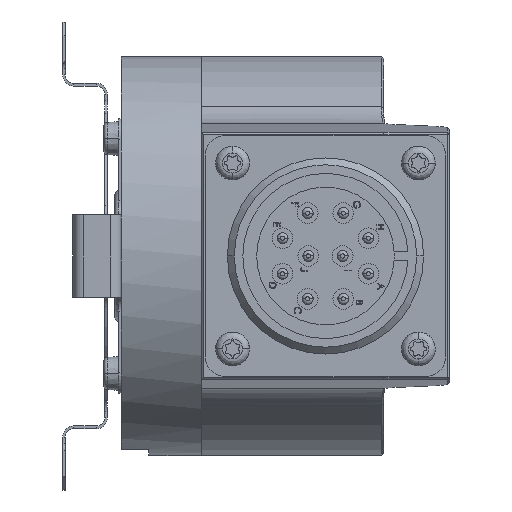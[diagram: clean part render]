
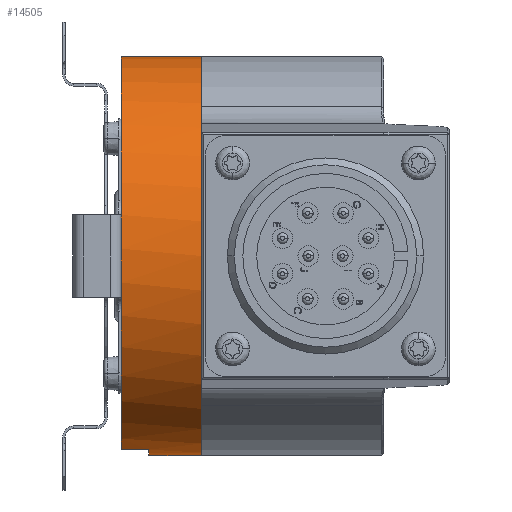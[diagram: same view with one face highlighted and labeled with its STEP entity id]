
A CAD part, front view. The second image highlights one B-rep face of the part: STEP entity #14505.
In plain terms, the highlighted cylindrical face has radius 29 mm (diameter 58 mm), a partial arc.
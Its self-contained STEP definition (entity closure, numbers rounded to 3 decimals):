
#88 = CARTESIAN_POINT ( 'NONE',  ( -3.622, 18.423, -28.142 ) ) ;
#131 = CARTESIAN_POINT ( 'NONE',  ( -3.622, 25.423, 29. ) ) ;
#639 = VERTEX_POINT ( 'NONE', #5673 ) ;
#721 = EDGE_CURVE ( 'NONE', #21824, #639, #20936, .T. ) ;
#1542 = ORIENTED_EDGE ( 'NONE', *, *, #19756, .F. ) ;
#2912 = ORIENTED_EDGE ( 'NONE', *, *, #15675, .T. ) ;
#3071 = DIRECTION ( 'NONE',  ( 1., 0., 0. ) ) ;
#3175 = CIRCLE ( 'NONE', #23425, 29. ) ;
#3300 = EDGE_CURVE ( 'NONE', #9199, #4149, #16801, .T. ) ;
#3954 = VECTOR ( 'NONE', #21583, 1000. ) ;
#4149 = VERTEX_POINT ( 'NONE', #88 ) ;
#4277 = CIRCLE ( 'NONE', #12838, 29. ) ;
#4954 = ORIENTED_EDGE ( 'NONE', *, *, #16945, .T. ) ;
#5183 = CARTESIAN_POINT ( 'NONE',  ( 8.068, 25.423, 0. ) ) ;
#5673 = CARTESIAN_POINT ( 'NONE',  ( 8.068, 25.423, -29. ) ) ;
#6641 = LINE ( 'NONE', #11018, #3954 ) ;
#6796 = ORIENTED_EDGE ( 'NONE', *, *, #721, .F. ) ;
#7749 = EDGE_LOOP ( 'NONE', ( #1542, #2912, #16017, #8155, #4954, #6796 ) ) ;
#8038 = DIRECTION ( 'NONE',  ( 1., 0., 0. ) ) ;
#8155 = ORIENTED_EDGE ( 'NONE', *, *, #10541, .T. ) ;
#8774 = AXIS2_PLACEMENT_3D ( 'NONE', #10602, #12718, #23295 ) ;
#9199 = VERTEX_POINT ( 'NONE', #21254 ) ;
#9860 = DIRECTION ( 'NONE',  ( 1., 0., 0. ) ) ;
#10287 = CARTESIAN_POINT ( 'NONE',  ( -3.622, 25.423, 0. ) ) ;
#10541 = EDGE_CURVE ( 'NONE', #9199, #24759, #3175, .T. ) ;
#10602 = CARTESIAN_POINT ( 'NONE',  ( 8.068, 25.423, 0. ) ) ;
#10633 = CARTESIAN_POINT ( 'NONE',  ( 0.378, 25.423, -29. ) ) ;
#10826 = CARTESIAN_POINT ( 'NONE',  ( 8.068, 25.423, 29. ) ) ;
#11018 = CARTESIAN_POINT ( 'NONE',  ( 8.068, 25.423, 29. ) ) ;
#11357 = VERTEX_POINT ( 'NONE', #131 ) ;
#12116 = CARTESIAN_POINT ( 'NONE',  ( 8.068, 25.423, -29. ) ) ;
#12718 = DIRECTION ( 'NONE',  ( 1., 0., 0. ) ) ;
#12838 = AXIS2_PLACEMENT_3D ( 'NONE', #10287, #8038, #18617 ) ;
#12937 = DIRECTION ( 'NONE',  ( 0., 0., 1. ) ) ;
#13511 = FACE_OUTER_BOUND ( 'NONE', #7749, .T. ) ;
#14505 = ADVANCED_FACE ( 'NONE', ( #13511 ), #24509, .T. ) ;
#15335 = CARTESIAN_POINT ( 'NONE',  ( 0.378, 25.423, 0. ) ) ;
#15675 = EDGE_CURVE ( 'NONE', #11357, #4149, #4277, .T. ) ;
#15768 = DIRECTION ( 'NONE',  ( 0., 0., -1. ) ) ;
#16017 = ORIENTED_EDGE ( 'NONE', *, *, #3300, .F. ) ;
#16620 = LINE ( 'NONE', #12116, #26837 ) ;
#16801 = LINE ( 'NONE', #19050, #20016 ) ;
#16945 = EDGE_CURVE ( 'NONE', #24759, #639, #16620, .T. ) ;
#18497 = DIRECTION ( 'NONE',  ( -1., 0., 0. ) ) ;
#18617 = DIRECTION ( 'NONE',  ( 0., 0., -1. ) ) ;
#19050 = CARTESIAN_POINT ( 'NONE',  ( 8.068, 18.423, -28.142 ) ) ;
#19756 = EDGE_CURVE ( 'NONE', #11357, #21824, #6641, .T. ) ;
#20016 = VECTOR ( 'NONE', #18497, 1000. ) ;
#20936 = CIRCLE ( 'NONE', #8774, 29. ) ;
#21254 = CARTESIAN_POINT ( 'NONE',  ( 0.378, 18.423, -28.142 ) ) ;
#21583 = DIRECTION ( 'NONE',  ( 1., 0., 0. ) ) ;
#21824 = VERTEX_POINT ( 'NONE', #10826 ) ;
#22103 = DIRECTION ( 'NONE',  ( 1., 0., 0. ) ) ;
#23295 = DIRECTION ( 'NONE',  ( 0., 0., -1. ) ) ;
#23425 = AXIS2_PLACEMENT_3D ( 'NONE', #15335, #22103, #12937 ) ;
#24509 = CYLINDRICAL_SURFACE ( 'NONE', #25872, 29. ) ;
#24759 = VERTEX_POINT ( 'NONE', #10633 ) ;
#25872 = AXIS2_PLACEMENT_3D ( 'NONE', #5183, #3071, #15768 ) ;
#26837 = VECTOR ( 'NONE', #9860, 1000. ) ;
